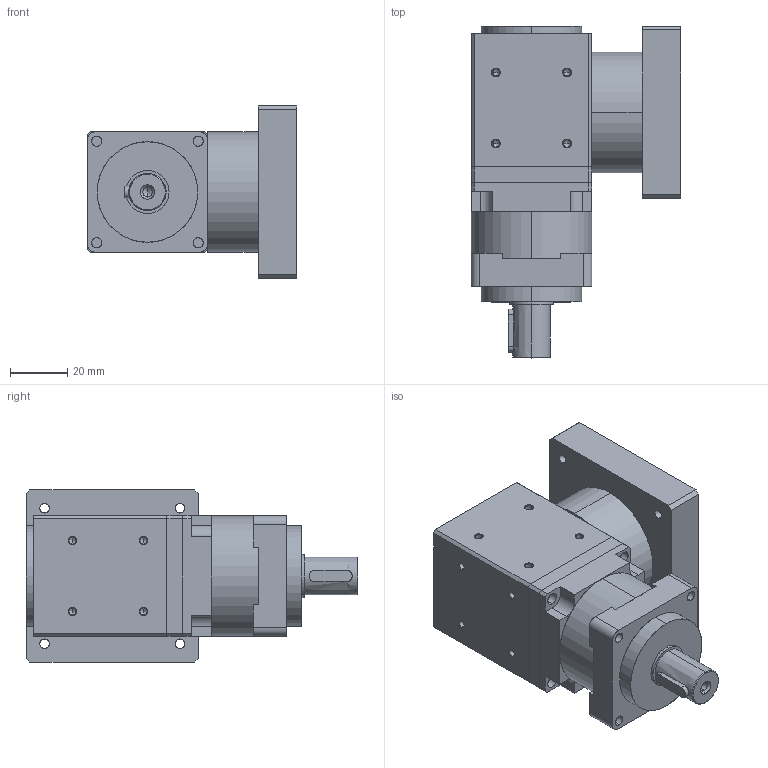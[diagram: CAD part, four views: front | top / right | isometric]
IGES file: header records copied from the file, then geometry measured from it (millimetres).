
Start section: SolidWorks IGES file using analytic representation for surfaces
Global section: file name: C:\Users\render\Documents\CAD Files\Gearboxes\R-Gearboxes\QXAS\QLAS\QLAS-042-XXX\QLAS-042-0XX.IGS; native system: SolidWorks 2011; preprocessor: SolidWorks 2011; author: render; date: 120522.134051; units: millimetre
Bounding box: 73 x 115.5 x 60 mm (x, y, z)
Surface area: 48890.9 mm2 (no closed solid volume)
Topology: 0 solids, 0 shells, 262 faces, 4064 edges, 4028 vertices
Faces by surface type: revolution 186, bspline 76
